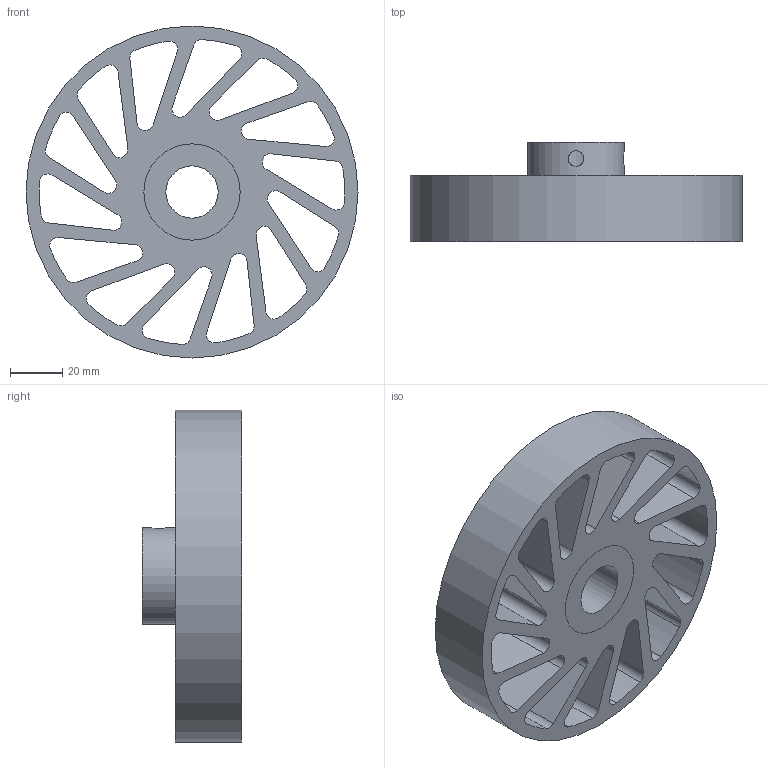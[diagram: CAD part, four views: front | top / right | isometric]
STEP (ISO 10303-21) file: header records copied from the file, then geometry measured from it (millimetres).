
FILE_DESCRIPTION(/* description */ (''),/* implementation_level */ '2;1');
FILE_NAME(/* name */ 'NCWM-470-XXX-YYY.stp',/* time_stamp */ '2023-02-02T16:33:02-06:00',/* author */ ('AG'),/* organization */ ('Meridian Laboratory'),/* preprocessor_version */ 'ST-DEVELOPER v18.1',/* originating_system */ 'Autodesk Inventor 2022',/* authorisation */ '');
FILE_SCHEMA (('AUTOMOTIVE_DESIGN { 1 0 10303 214 3 1 1 }'));
Length unit declared in the file: millimetre
Products named in the file (1): NCWM-440
Bounding box: 127 x 38.1 x 127 mm (x, y, z)
Volume: 181469.6 mm3; surface area: 64412.6 mm2
Topology: 2 solids, 2 shells, 94 faces, 276 edges, 186 vertices
Faces by surface type: cylinder 62, plane 32
Full cylindrical faces by diameter (mm): 6 x2, 20.025 x1, 36.83 x2, 127 x1
Entity records: 3528 total; most frequent: CARTESIAN_POINT 697, DIRECTION 576, ORIENTED_EDGE 552, EDGE_CURVE 276, AXIS2_PLACEMENT_3D 215, VERTEX_POINT 186, LINE 146, VECTOR 146
